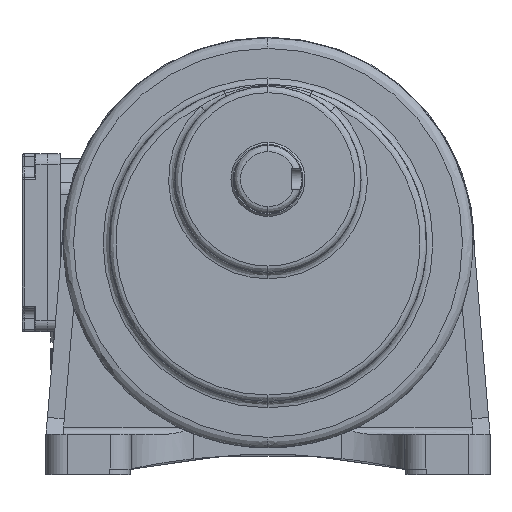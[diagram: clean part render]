
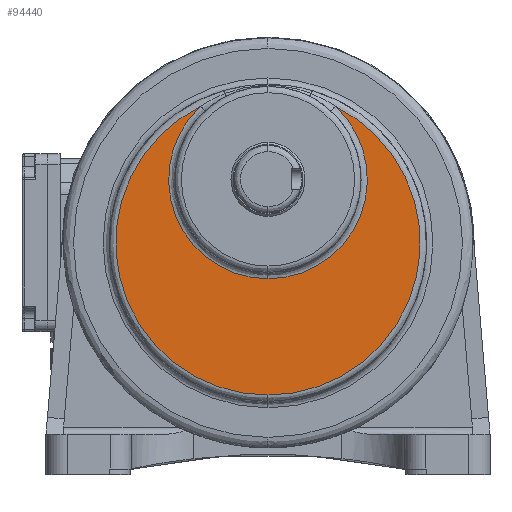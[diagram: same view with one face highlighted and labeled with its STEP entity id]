
A CAD part, top view. The second image highlights one B-rep face of the part: STEP entity #94440.
In plain terms, the highlighted planar face has unit normal (0, 0, 1) as drawn and (0, 1, 0) by its records, which use the part's own axes.
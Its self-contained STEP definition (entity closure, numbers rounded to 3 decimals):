
#7579 = AXIS2_PLACEMENT_3D ( 'NONE', #100312, #100315, #100316 ) ;
#7581 = FACE_OUTER_BOUND ( 'NONE', #13927, .T. ) ;
#8836 = AXIS2_PLACEMENT_3D ( 'NONE', #110178, #110182, #110183 ) ;
#12708 = EDGE_CURVE ( 'NONE', #68445, #68448, #117653, .T. ) ;
#12712 = EDGE_CURVE ( 'NONE', #68428, #68445, #117656, .T. ) ;
#12781 = EDGE_CURVE ( 'NONE', #68448, #21412, #117681, .T. ) ;
#13927 = EDGE_LOOP ( 'NONE', ( #143637, #143638, #143639, #143633 ) ) ;
#21412 = VERTEX_POINT ( 'NONE', #64553 ) ;
#35172 = AXIS2_PLACEMENT_3D ( 'NONE', #131263, #131265, #131267 ) ;
#35219 = AXIS2_PLACEMENT_3D ( 'NONE', #131195, #131197, #131199 ) ;
#35981 = AXIS2_PLACEMENT_3D ( 'NONE', #131851, #131853, #131855 ) ;
#53416 = CARTESIAN_POINT ( 'NONE',  ( 0., 0., 47. ) ) ;
#53433 = CARTESIAN_POINT ( 'NONE',  ( -31.828, 0., -34.583 ) ) ;
#53436 = CARTESIAN_POINT ( 'NONE',  ( 0., 0., 102. ) ) ;
#64553 = CARTESIAN_POINT ( 'NONE',  ( 31.828, 0., -34.583 ) ) ;
#68428 = VERTEX_POINT ( 'NONE', #53416 ) ;
#68445 = VERTEX_POINT ( 'NONE', #53433 ) ;
#68448 = VERTEX_POINT ( 'NONE', #53436 ) ;
#94440 = ADVANCED_FACE ( 'NONE', ( #7581 ), #100311, .T. ) ;
#98807 = EDGE_CURVE ( 'NONE', #21412, #68428, #115887, .T. ) ;
#100311 = PLANE ( 'NONE',  #7579 ) ;
#100312 = CARTESIAN_POINT ( 'NONE',  ( 78., 0., -48.063 ) ) ;
#100315 = DIRECTION ( 'NONE',  ( 0., 1., 0. ) ) ;
#100316 = DIRECTION ( 'NONE',  ( 0., 0., 1. ) ) ;
#110178 = CARTESIAN_POINT ( 'NONE',  ( 0., 0., 0. ) ) ;
#110182 = DIRECTION ( 'NONE',  ( 0., -1., 0. ) ) ;
#110183 = DIRECTION ( 'NONE',  ( 0., 0., 1. ) ) ;
#115887 = CIRCLE ( 'NONE', #8836, 47. ) ;
#117653 = CIRCLE ( 'NONE', #35219, 72. ) ;
#117656 = CIRCLE ( 'NONE', #35172, 47. ) ;
#117681 = CIRCLE ( 'NONE', #35981, 72. ) ;
#131195 = CARTESIAN_POINT ( 'NONE',  ( 0., 0., 30. ) ) ;
#131197 = DIRECTION ( 'NONE',  ( 0., 1., 0. ) ) ;
#131199 = DIRECTION ( 'NONE',  ( 0., 0., 1. ) ) ;
#131263 = CARTESIAN_POINT ( 'NONE',  ( 0., 0., 0. ) ) ;
#131265 = DIRECTION ( 'NONE',  ( 0., -1., 0. ) ) ;
#131267 = DIRECTION ( 'NONE',  ( 0., 0., 1. ) ) ;
#131851 = CARTESIAN_POINT ( 'NONE',  ( 0., 0., 30. ) ) ;
#131853 = DIRECTION ( 'NONE',  ( 0., 1., 0. ) ) ;
#131855 = DIRECTION ( 'NONE',  ( 0., 0., 1. ) ) ;
#143633 = ORIENTED_EDGE ( 'NONE', *, *, #12712, .T. ) ;
#143637 = ORIENTED_EDGE ( 'NONE', *, *, #12708, .T. ) ;
#143638 = ORIENTED_EDGE ( 'NONE', *, *, #12781, .T. ) ;
#143639 = ORIENTED_EDGE ( 'NONE', *, *, #98807, .T. ) ;
